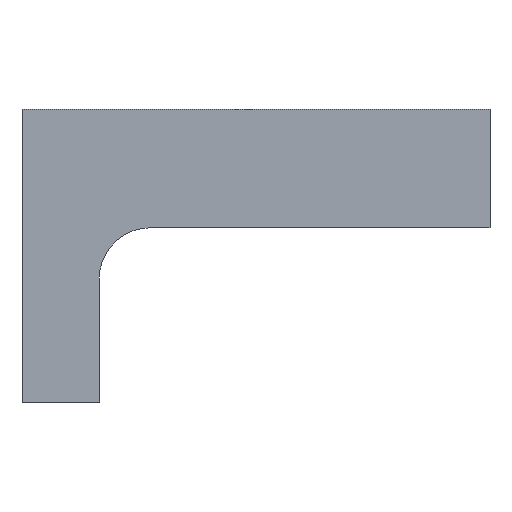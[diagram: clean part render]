
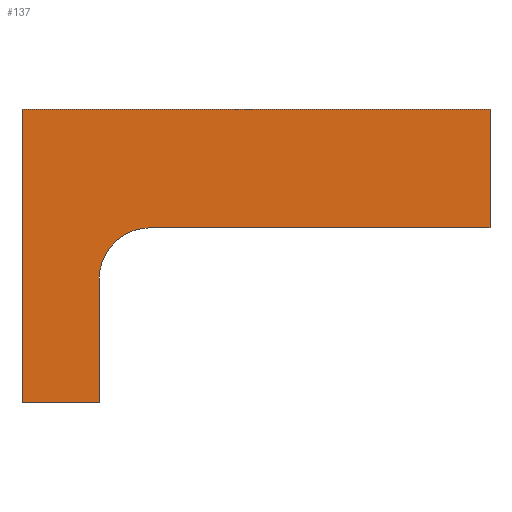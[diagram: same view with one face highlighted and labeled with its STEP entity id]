
A CAD part, left-side view. The second image highlights one B-rep face of the part: STEP entity #137.
In plain terms, the highlighted planar face has unit normal (-1, 0, 0).
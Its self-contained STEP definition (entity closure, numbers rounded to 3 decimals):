
#113=CIRCLE('',#442,10.);
#137=ADVANCED_FACE('',(#174),#165,.T.);
#165=PLANE('',#443);
#174=FACE_OUTER_BOUND('',#183,.T.);
#183=EDGE_LOOP('',(#242,#243,#244,#245,#246,#247,#248));
#242=ORIENTED_EDGE('',*,*,#363,.T.);
#243=ORIENTED_EDGE('',*,*,#359,.T.);
#244=ORIENTED_EDGE('',*,*,#365,.F.);
#245=ORIENTED_EDGE('',*,*,#366,.T.);
#246=ORIENTED_EDGE('',*,*,#367,.F.);
#247=ORIENTED_EDGE('',*,*,#368,.T.);
#248=ORIENTED_EDGE('',*,*,#369,.T.);
#319=VERTEX_POINT('',#618);
#321=VERTEX_POINT('',#622);
#325=VERTEX_POINT('',#632);
#326=VERTEX_POINT('',#636);
#327=VERTEX_POINT('',#638);
#328=VERTEX_POINT('',#640);
#329=VERTEX_POINT('',#642);
#359=EDGE_CURVE('',#319,#321,#402,.T.);
#363=EDGE_CURVE('',#325,#319,#404,.T.);
#365=EDGE_CURVE('',#326,#321,#406,.T.);
#366=EDGE_CURVE('',#326,#327,#407,.T.);
#367=EDGE_CURVE('',#328,#327,#408,.T.);
#368=EDGE_CURVE('',#328,#329,#113,.T.);
#369=EDGE_CURVE('',#329,#325,#409,.T.);
#402=LINE('',#623,#421);
#404=LINE('',#631,#423);
#406=LINE('',#635,#425);
#407=LINE('',#637,#426);
#408=LINE('',#639,#427);
#409=LINE('',#643,#428);
#421=VECTOR('',#495,1.);
#423=VECTOR('',#503,1.);
#425=VECTOR('',#507,1.);
#426=VECTOR('',#508,1.);
#427=VECTOR('',#509,1.);
#428=VECTOR('',#512,1.);
#442=AXIS2_PLACEMENT_3D('',#641,#510,#511);
#443=AXIS2_PLACEMENT_3D('',#644,#513,#514);
#495=DIRECTION('',(0.,1.,0.));
#503=DIRECTION('',(0.,0.,1.));
#507=DIRECTION('',(0.,0.,1.));
#508=DIRECTION('',(0.,-1.,0.));
#509=DIRECTION('',(0.,0.,-1.));
#510=DIRECTION('',(1.,0.,0.));
#511=DIRECTION('',(0.,0.,1.));
#512=DIRECTION('',(0.,-1.,0.));
#513=DIRECTION('',(-1.,0.,0.));
#514=DIRECTION('',(0.,0.,1.));
#618=CARTESIAN_POINT('',(0.,0.,23.));
#622=CARTESIAN_POINT('',(0.,91.,23.));
#623=CARTESIAN_POINT('',(0.,45.5,23.));
#631=CARTESIAN_POINT('',(0.,0.,0.));
#632=CARTESIAN_POINT('',(0.,0.,0.));
#635=CARTESIAN_POINT('',(0.,91.,0.));
#636=CARTESIAN_POINT('',(0.,91.,-34.));
#637=CARTESIAN_POINT('',(0.,91.,-34.));
#638=CARTESIAN_POINT('',(0.,76.,-34.));
#639=CARTESIAN_POINT('',(0.,76.,0.));
#640=CARTESIAN_POINT('',(0.,76.,-10.));
#641=CARTESIAN_POINT('',(0.,66.,-10.));
#642=CARTESIAN_POINT('',(0.,66.,0.));
#643=CARTESIAN_POINT('',(0.,45.5,0.));
#644=CARTESIAN_POINT('',(0.,45.5,0.));
